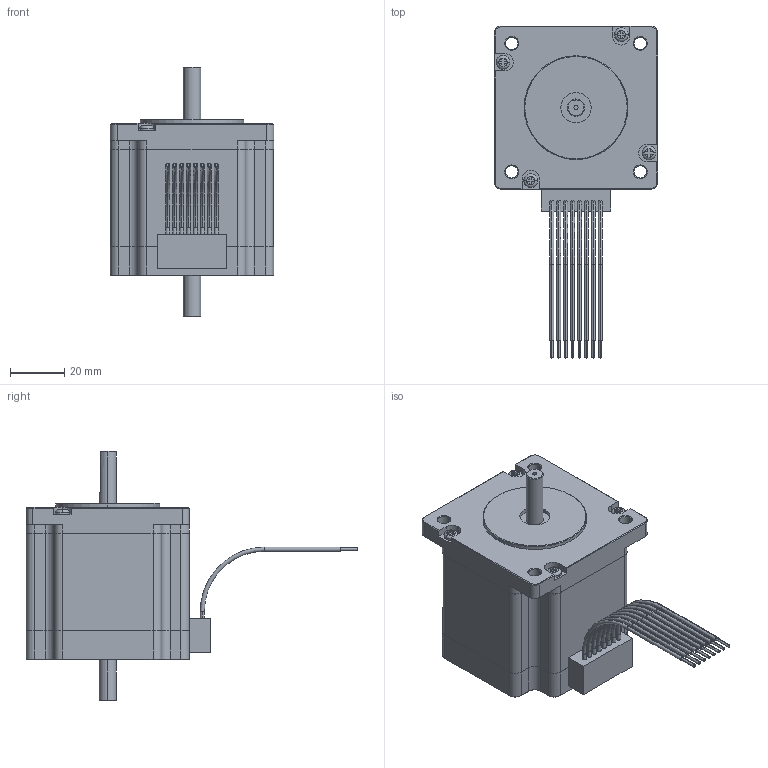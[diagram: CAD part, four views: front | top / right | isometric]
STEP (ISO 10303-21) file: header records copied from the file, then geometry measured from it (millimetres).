
FILE_DESCRIPTION (( 'STEP AP214' ), '1' );
FILE_NAME ('24Y204D-LW8.STEP', '2010-06-11T15:55:35', ( 'Tim Raines' ), ( 'Anaheim Automation' ), 'SwSTEP 2.0', 'SolidWorks 2010', '' );
FILE_SCHEMA (( 'AUTOMOTIVE_DESIGN' ));
Length unit declared in the file: inch
Products named in the file (1): 24Y204D-LW8
Bounding box: 59.94 x 121.84 x 91.57 mm (x, y, z)
Volume: 185240.9 mm3; surface area: 25055.6 mm2
Topology: 1 solids, 1 shells, 397 faces, 994 edges, 622 vertices
Faces by surface type: plane 175, cylinder 135, cone 63, torus 24
Entity records: 17080 total; most frequent: CARTESIAN_POINT 2256, DIRECTION 2099, ORIENTED_EDGE 1964, EDGE_CURVE 982, AXIS2_PLACEMENT_3D 777, VERTEX_POINT 622, VECTOR 545, LINE 545
